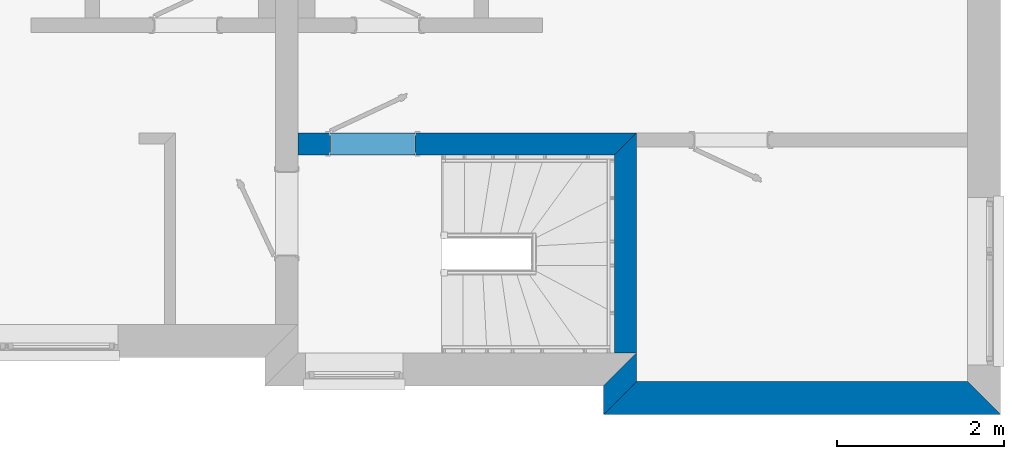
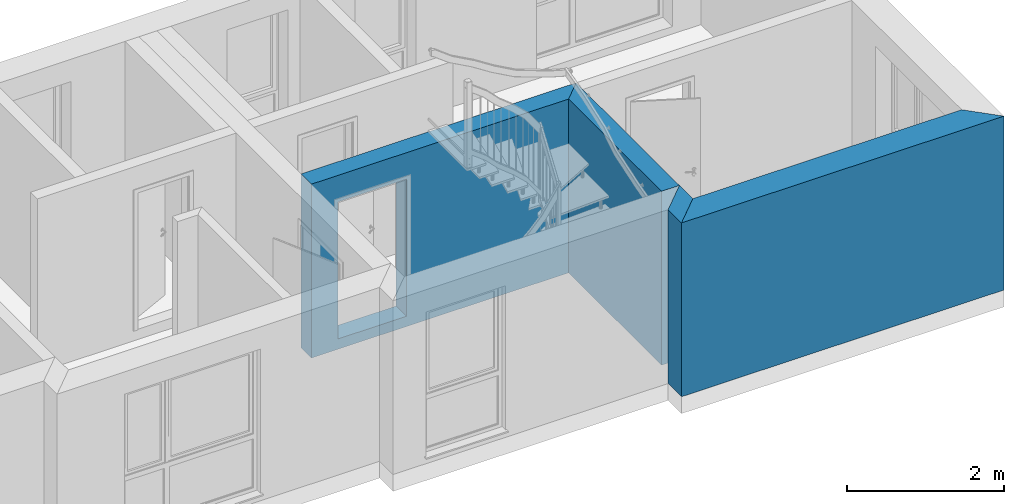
# One storey, part 6 of 16: 4 walls, 1 opening.
"""IFC2X3 building model written with IfcOpenShell, lengths in millimetres."""

import ifcopenshell
import ifcopenshell.guid

model = None  # the IFC model being written
_history = None  # IfcOwnerHistory: only IFC2X3 demands one
_inside = {}  # id of a spatial element -> (the spatial element, [elements in it])
_under = {}  # id of a project, library or spatial element -> (it, [spatial elements below it])
_declared = {}  # id of a project -> (the project, [libraries it declares])
_typed = {}  # id of a type object -> (the type object, [elements of that type])
_made_of = {}  # id of a material, layer set ... -> (it, [elements and type objects made of it])


def new_model(schema):
    """Start an empty IFC model of exactly this schema.

    Asked for "IFC4X3", IfcOpenShell would pick the latest addendum, in which some entities
    have other attributes; the version numbers below select the first issue.
    IFC2X3 requires an IfcOwnerHistory on every rooted entity: one is made here for all.
    """
    global model, _history
    if schema == "IFC4X3":
        model = ifcopenshell.file(schema_version=(4, 3, 0, 0))
    else:
        model = ifcopenshell.file(schema=schema)
    _inside.clear()
    _under.clear()
    _declared.clear()
    _typed.clear()
    _made_of.clear()
    _history = None
    if model.schema == "IFC2X3":
        org = make("IfcOrganization", Name="unknown")
        user = make(
            "IfcPersonAndOrganization",
            ThePerson=make("IfcPerson", FamilyName="unknown"),
            TheOrganization=org,
        )
        app = make(
            "IfcApplication",
            ApplicationDeveloper=org,
            Version="unknown",
            ApplicationFullName="unknown",
            ApplicationIdentifier="unknown",
        )
        _history = make(
            "IfcOwnerHistory",
            OwningUser=user,
            OwningApplication=app,
            ChangeAction="ADDED",
            CreationDate=0,
        )
    return model


def make(cls, **values):
    """One entity of the class cls with the attributes given. An attribute that is None is left unset."""
    return model.create_entity(
        cls, **{name: value for name, value in values.items() if value is not None}
    )


def rooted(cls, **values):
    """An entity with a GlobalId (a new one), such as an element, a storey or a relation."""
    return make(cls, GlobalId=ifcopenshell.guid.new(), OwnerHistory=_history, **values)


def si_unit(unit_type, name, prefix=None):
    """IfcSIUnit, for example si_unit("LENGTHUNIT", "METRE", prefix="MILLI")."""
    return make("IfcSIUnit", UnitType=unit_type, Prefix=prefix, Name=name)


def assignment(units):
    """IfcUnitAssignment: the units of a project."""
    return None if units is None else make("IfcUnitAssignment", Units=units)


def point(xyz):
    """IfcCartesianPoint."""
    return None if xyz is None else make("IfcCartesianPoint", Coordinates=xyz)


def direction(xyz):
    """IfcDirection."""
    return None if xyz is None else make("IfcDirection", DirectionRatios=xyz)


def frame(location, z_axis=None, x_axis=None):
    """IfcAxis2Placement3D, a coordinate frame: its origin and axes. An axis left out is left unset."""
    return make(
        "IfcAxis2Placement3D",
        Location=point(location),
        Axis=direction(z_axis),
        RefDirection=direction(x_axis),
    )


def origin_with_axes():
    """The frame at (0, 0, 0) with the z axis (0, 0, 1) and the x axis (1, 0, 0) written out."""
    return frame((0.0, 0.0, 0.0), z_axis=(0.0, 0.0, 1.0), x_axis=(1.0, 0.0, 0.0))


def place(relative_to, where):
    """IfcLocalPlacement: puts the frame where relative to a parent placement (None: the world)."""
    return make(
        "IfcLocalPlacement", PlacementRelTo=relative_to, RelativePlacement=where
    )


def context(
    kind, dimensions, precision=None, world=None, true_north=None, identifier=None
):
    """IfcGeometricRepresentationContext, for example the 3D "Model" context."""
    return make(
        "IfcGeometricRepresentationContext",
        ContextIdentifier=identifier,
        ContextType=kind,
        CoordinateSpaceDimension=dimensions,
        Precision=precision,
        WorldCoordinateSystem=world,
        TrueNorth=true_north,
    )


def project(units=None, contexts=None):
    """IfcProject with its units and contexts."""
    return rooted(
        "IfcProject",
        Name="project",
        RepresentationContexts=contexts,
        UnitsInContext=assignment(units),
    )


def spatial(cls, under=None, at=None, **own):
    """A site, building, storey or space (cls), placed at a placement, below another one or the project."""
    s = rooted(cls, ObjectPlacement=at, **own)
    if under is not None:
        _under.setdefault(under.id(), (under, []))[1].append(s)
    return s


def faces_of(points, faces, orient=None, outer=None):
    """IfcFace entities. A face is a list of loops; a loop is a list of indices into points, from 0.

    orient and outer hold one flag for each loop. By default every Orientation is true, the
    first loop of a face is its IfcFaceOuterBound and the others are IfcFaceBound.
    """
    made = []
    for i, loops in enumerate(faces):
        bounds = []
        for j, loop in enumerate(loops):
            is_outer = j == 0 if outer is None else outer[i][j]
            bounds.append(
                make(
                    "IfcFaceOuterBound" if is_outer else "IfcFaceBound",
                    Bound=make("IfcPolyLoop", Polygon=[points[k] for k in loop]),
                    Orientation=True if orient is None else orient[i][j],
                )
            )
        made.append(make("IfcFace", Bounds=bounds))
    return made


def faceted_brep(points, faces, orient=None, outer=None, voids=None):
    """IfcFacetedBrep: a solid bounded by flat faces; with voids (closed shells), ...WithVoids."""
    shared = [point(p) for p in points]
    hull = make("IfcClosedShell", CfsFaces=faces_of(shared, faces, orient, outer))
    if voids is None:
        return make("IfcFacetedBrep", Outer=hull)
    return make(
        "IfcFacetedBrepWithVoids",
        Outer=hull,
        Voids=[
            make(cls, CfsFaces=faces_of(shared, fs, o, b)) for cls, fs, o, b in voids
        ],
    )


def shape(context_of_items, identifier, shape_type, items):
    """IfcShapeRepresentation: the items that make up one representation, for example the "Body"."""
    return make(
        "IfcShapeRepresentation",
        ContextOfItems=context_of_items,
        RepresentationIdentifier=identifier,
        RepresentationType=shape_type,
        Items=items,
    )


def material(Name=None, Category=None):
    """IfcMaterial."""
    return make("IfcMaterial", Name=Name, Category=Category)


def layer(
    of_material, thickness, ventilated=None, Name=None, Category=None, Priority=None
):
    """IfcMaterialLayer: one layer of a wall or slab, of a material (None: an air gap)."""
    return make(
        "IfcMaterialLayer",
        Material=of_material,
        LayerThickness=thickness,
        IsVentilated=ventilated,
        Name=Name,
        Category=Category,
        Priority=Priority,
    )


def layer_set(layers, Name=None):
    """IfcMaterialLayerSet."""
    return make("IfcMaterialLayerSet", MaterialLayers=layers, LayerSetName=Name)


def layer_usage(for_layer_set, set_direction, sense, offset, extent=None):
    """IfcMaterialLayerSetUsage: how a layer set lies in its element."""
    return make(
        "IfcMaterialLayerSetUsage",
        ForLayerSet=for_layer_set,
        LayerSetDirection=set_direction,
        DirectionSense=sense,
        OffsetFromReferenceLine=offset,
        ReferenceExtent=extent,
    )


def made_of(thing, what):
    """Note that an element or type object is made of a material, layer set ...; save() writes the relation."""
    if what is not None:
        _made_of.setdefault(what.id(), (what, []))[1].append(thing)
    return thing


def element(
    cls,
    number,
    at=None,
    inside=None,
    cuts=None,
    type_object=None,
    material=None,
    context=None,
    identifier="Body",
    shape_type=None,
    held_by="IfcProductDefinitionShape",
    body=None,
    shapes=None,
    **own,
):
    """One element of the class cls, such as IfcWall. Its Tag is "e" and its number.

    at: its placement. inside: the storey or other place that contains it. cuts: it is an
    opening in that element (IfcRelVoidsElement). A single representation is given by context,
    identifier, shape_type and body (its items); several are given by shapes. held_by: the class
    of the entity that holds the representations. save() writes the other relations.
    """
    e = rooted(cls, Tag="e%d" % number, ObjectPlacement=at, **own)
    if body is not None:
        shapes = [shape(context, identifier, shape_type, body)]
    if shapes is not None:
        e.Representation = make(held_by, Representations=shapes)
    if inside is not None:
        _inside.setdefault(inside.id(), (inside, []))[1].append(e)
    if cuts is not None:
        rooted(
            "IfcRelVoidsElement", RelatingBuildingElement=cuts, RelatedOpeningElement=e
        )
    if type_object is not None:
        _typed.setdefault(type_object.id(), (type_object, []))[1].append(e)
    return made_of(e, material)


def aggregate(whole, parts):
    """IfcRelAggregates: a whole, such as a stair, and the parts it consists of."""
    return rooted("IfcRelAggregates", RelatingObject=whole, RelatedObjects=parts)


def save(model, path):
    """Write the relations noted so far, then the file.

    IfcRelAggregates (storeys below a building ...), IfcRelContainedInSpatialStructure (elements
    in a storey), IfcRelDefinesByType, IfcRelAssociatesMaterial and IfcRelDeclares: one each for
    every whole, place, type object, material and project.
    """
    for whole, parts in _under.values():
        aggregate(whole, parts)
    for where, things in _inside.values():
        rooted(
            "IfcRelContainedInSpatialStructure",
            RelatedElements=things,
            RelatingStructure=where,
        )
    for kind, things in _typed.values():
        rooted("IfcRelDefinesByType", RelatedObjects=things, RelatingType=kind)
    for what, things in _made_of.values():
        rooted("IfcRelAssociatesMaterial", RelatedObjects=things, RelatingMaterial=what)
    for by, libraries in _declared.values():
        rooted("IfcRelDeclares", RelatingContext=by, RelatedDefinitions=libraries)
    model.write(path)


model = new_model("IFC2X3")

# Units and contexts
model_context = context("Model", 3, world=origin_with_axes())
ifc_project = project(units=[si_unit("LENGTHUNIT", "METRE", prefix="MILLI")], contexts=[model_context])

# Site, building, storey
site_placement = place(None, origin_with_axes())
site = spatial("IfcSite", under=ifc_project, at=site_placement, Name="Site", CompositionType="ELEMENT")
building_placement = place(site_placement, origin_with_axes())
building = spatial("IfcBuilding", under=site, at=building_placement, Name="?", CompositionType="ELEMENT")
storey_placement = place(building_placement, frame((0.0, 0.0, 2969.0), z_axis=(0.0, 0.0, 1.0), x_axis=(1.0, 0.0, 0.0)))
storey = spatial("IfcBuildingStorey", under=building, at=storey_placement, Name="Obergeschoß 1", CompositionType="ELEMENT", Elevation=2969.0)

# Walls
ifc_material_1 = material(Name="Material_AW")
ifc_layer_1 = layer(ifc_material_1, 395.0, ventilated=False)
ifc_layer_set_1 = layer_set([ifc_layer_1], Name="MaterialLayerSet_AW")
ifc_layer_usage_1 = layer_usage(ifc_layer_set_1, "AXIS2", "NEGATIVE", 197.5)
wall_1_placement = place(storey_placement, frame((18102.5, -7242.5, 0.0), z_axis=(0.0, 0.0, 1.0), x_axis=(-1.0, 0.0, 0.0)))
element("IfcWall", 1, at=wall_1_placement, inside=storey, material=ifc_layer_usage_1, Name="AW-13", context=model_context, shape_type="Brep", body=[
    faceted_brep([(4157.49996012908, -197.5, 0.0), (4157.49996012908, -197.5, 2707.0), (197.5, -197.5, 2707.0), (197.5, -197.5, 0.0), (4552.49996012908, 197.5, 0.0), (4552.49996012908, 197.5, 2707.0), (4157.49996012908, -197.5, 2707.0), (4157.49996012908, -197.5, 0.0), (-197.499034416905, 197.5, 0.0), (-197.499034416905, 197.5, 2707.0), (4552.49996012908, 197.5, 2707.0), (4552.49996012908, 197.5, 0.0), (197.5, -197.5, 0.0), (197.5, -197.5, 2707.0), (-197.499034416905, 197.5, 2707.0), (-197.499034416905, 197.5, 0.0), (197.5, -197.5, 0.0), (-197.499034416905, 197.5, 0.0), (4552.49996012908, 197.5, 0.0), (4157.49996012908, -197.5, 0.0), (-197.499034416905, 197.5, 2707.0), (197.5, -197.5, 2707.0), (4157.49996012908, -197.5, 2707.0), (4552.49996012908, 197.5, 2707.0)], [[[0, 1, 2, 3]], [[4, 5, 6, 7]], [[8, 9, 10, 11]], [[12, 13, 14, 15]], [[16, 17, 18, 19]], [[20, 21, 22, 23]]]),
])
wall_2_placement = place(storey_placement, frame((13747.5, -7242.5, 0.0), z_axis=(0.0, 0.0, 1.0), x_axis=(0.0, 1.0, 0.0)))
element("IfcWall", 2, at=wall_2_placement, inside=storey, material=ifc_layer_usage_1, Name="AW-14", context=model_context, shape_type="Brep", body=[
    faceted_brep([(539.500007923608, -197.5, 0.0), (539.500007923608, -197.5, 2707.0), (197.5, -197.5, 2707.0), (197.5, -197.5, 0.0), (144.500007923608, 197.5, 0.0), (144.500007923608, 197.5, 2707.0), (539.500007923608, -197.5, 2707.0), (539.500007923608, -197.5, 0.0), (-197.5, 197.5, 0.0), (-197.5, 197.5, 2707.0), (144.500007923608, 197.5, 2707.0), (144.500007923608, 197.5, 0.0), (197.5, -197.5, 0.0), (197.5, -197.5, 2707.0), (-197.5, 197.5, 2707.0), (-197.5, 197.5, 0.0), (197.5, -197.5, 0.0), (-197.5, 197.5, 0.0), (144.500007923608, 197.5, 0.0), (539.500007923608, -197.5, 0.0), (-197.5, 197.5, 2707.0), (197.5, -197.5, 2707.0), (539.500007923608, -197.5, 2707.0), (144.500007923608, 197.5, 2707.0)], [[[0, 1, 2, 3]], [[4, 5, 6, 7]], [[8, 9, 10, 11]], [[12, 13, 14, 15]], [[16, 17, 18, 19]], [[20, 21, 22, 23]]]),
])
ifc_material_2 = material(Name="Material_IW")
ifc_layer_2 = layer(ifc_material_2, 264.0, ventilated=False)
ifc_layer_set_2 = layer_set([ifc_layer_2], Name="MaterialLayerSet_IW")
ifc_layer_usage_2 = layer_usage(ifc_layer_set_2, "AXIS2", "NEGATIVE", 132.0)
wall_3_placement = place(storey_placement, frame((13813.0, -6703.0, 0.0), z_axis=(0.0, 0.0, 1.0), x_axis=(0.0, 1.0, 0.0)))
element("IfcWall", 3, at=wall_3_placement, inside=storey, material=ifc_layer_usage_2, Name="IW-23", context=model_context, shape_type="Brep", body=[
    faceted_brep([(2634.00016386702, -132.0, 0.0), (2634.00016386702, -132.0, 2707.0), (0.0, -132.0, 2707.0), (0.0, -132.0, 0.0), (2369.99991907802, 132.0, 0.0), (2369.99991907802, 132.0, 2707.0), (2634.00016386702, -132.0, 2707.0), (2634.00016386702, -132.0, 0.0), (0.0, 132.0, 0.0), (0.0, 132.0, 2707.0), (2369.99991907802, 132.0, 2707.0), (2369.99991907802, 132.0, 0.0), (0.0, -132.0, 0.0), (0.0, -132.0, 2707.0), (0.0, 132.0, 2707.0), (0.0, 132.0, 0.0), (0.0, -132.0, 0.0), (0.0, 132.0, 0.0), (2369.99991907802, 132.0, 0.0), (2634.00016386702, -132.0, 0.0), (0.0, -132.0, 2707.0), (2634.00016386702, -132.0, 2707.0), (2369.99991907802, 132.0, 2707.0), (0.0, 132.0, 2707.0)], [[[0, 1, 2, 3]], [[4, 5, 6, 7]], [[8, 9, 10, 11]], [[12, 13, 14, 15]], [[16, 17, 18, 19]], [[20, 21, 22, 23]]]),
])

# Wall, opening
wall_4_placement = place(storey_placement, frame((9895.0, -4201.0, 0.0), z_axis=(0.0, 0.0, 1.0), x_axis=(1.0, 0.0, 0.0)))
wall_4 = element("IfcWall", 4, at=wall_4_placement, inside=storey, material=ifc_layer_usage_2, Name="IW-25", context=model_context, shape_type="Brep", body=[
    faceted_brep([(3786.00043057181, -132.0, 0.0), (3786.00043057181, -132.0, 2707.0), (0.0, -132.0, 2707.0), (0.0, -132.0, 0.0), (4049.99994099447, 132.0, 0.0), (4049.99994099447, 132.0, 2707.0), (3786.00043057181, -132.0, 2707.0), (3786.00043057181, -132.0, 0.0), (0.0, 132.0, 0.0), (0.0, 132.0, 2707.0), (4049.99994099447, 132.0, 2707.0), (4049.99994099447, 132.0, 0.0), (0.0, -132.0, 0.0), (0.0, -132.0, 2707.0), (0.0, 132.0, 2707.0), (0.0, 132.0, 0.0), (0.0, -132.0, 0.0), (0.0, 132.0, 0.0), (4049.99994099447, 132.0, 0.0), (3786.00043057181, -132.0, 0.0), (0.0, -132.0, 2707.0), (3786.00043057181, -132.0, 2707.0), (4049.99994099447, 132.0, 2707.0), (0.0, 132.0, 2707.0)], [[[0, 1, 2, 3]], [[4, 5, 6, 7]], [[8, 9, 10, 11]], [[12, 13, 14, 15]], [[16, 17, 18, 19]], [[20, 21, 22, 23]]]),
])
opening_placement = place(wall_4_placement, frame((390.0, 0.0, 160.0), z_axis=(0.0, 0.0, 1.0), x_axis=(1.0, 0.0, 0.0)))
element("IfcOpeningElement", 5, at=opening_placement, cuts=wall_4, Name="IW-25|IT10", context=model_context, shape_type="Brep", body=[
    faceted_brep([(0.0, 142.0, 0.0), (0.0, 142.0, 2135.0), (1010.0, 142.0, 2135.0), (1010.0, 142.0, 0.0), (0.0, -142.0, 0.0), (0.0, -142.0, 2135.0), (0.0, 142.0, 2135.0), (0.0, 142.0, 0.0), (1010.0, -142.0, 0.0), (0.0, -142.0, 0.0), (0.0, 142.0, 0.0), (1010.0, 142.0, 0.0), (1010.0, -142.0, 2135.0), (1010.0, -142.0, 0.0), (1010.0, 142.0, 0.0), (1010.0, 142.0, 2135.0), (0.0, -142.0, 2135.0), (1010.0, -142.0, 2135.0), (1010.0, 142.0, 2135.0), (0.0, 142.0, 2135.0), (0.0, -142.0, 0.0), (1010.0, -142.0, 0.0), (1010.0, -142.0, 2135.0), (0.0, -142.0, 2135.0)], [[[0, 1, 2, 3]], [[4, 5, 6, 7]], [[8, 9, 10, 11]], [[12, 13, 14, 15]], [[16, 17, 18, 19]], [[20, 21, 22, 23]]]),
])

save(model, "model.ifc")
